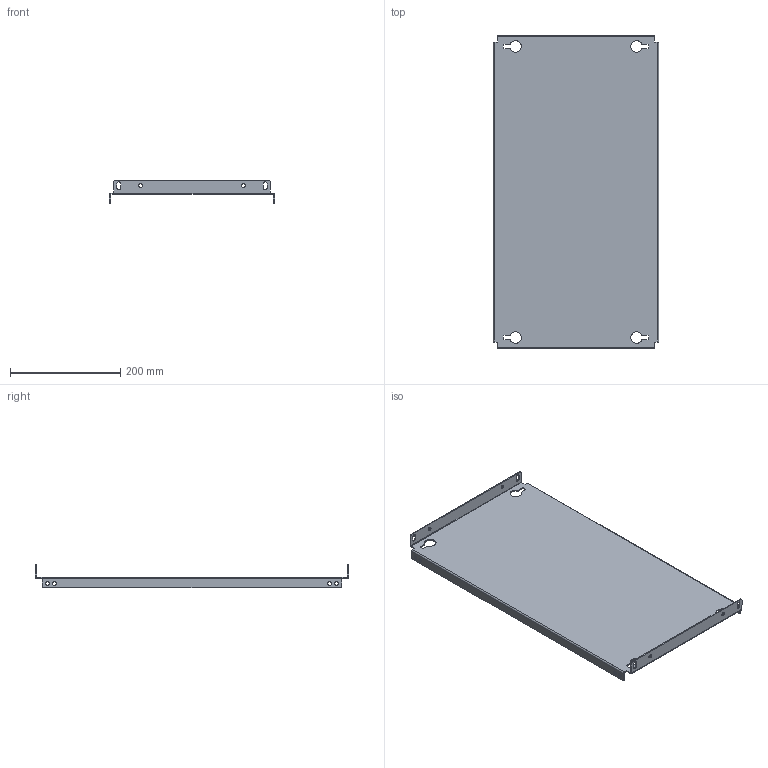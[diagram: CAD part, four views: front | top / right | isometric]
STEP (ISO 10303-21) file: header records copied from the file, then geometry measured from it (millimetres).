
FILE_DESCRIPTION (( 'STEP AP203' ), '1' );
FILE_NAME ('R5PPS6004.STEP', '2021-12-20T06:46:56', ( '' ), ( '' ), 'SwSTEP 2.0', 'SolidWorks 2020', '' );
FILE_SCHEMA (( 'CONFIG_CONTROL_DESIGN' ));
Length unit declared in the file: millimetre
Products named in the file (1): R5PPS6004
Bounding box: 300 x 569 x 43 mm (x, y, z)
Volume: 397463.8 mm3; surface area: 402766.7 mm2
Topology: 1 solids, 1 shells, 132 faces, 358 edges, 228 vertices
Faces by surface type: cylinder 74, plane 58
Entity records: 4331 total; most frequent: DIRECTION 772, CARTESIAN_POINT 719, ORIENTED_EDGE 716, EDGE_CURVE 358, AXIS2_PLACEMENT_3D 281, VERTEX_POINT 228, VECTOR 210, LINE 210
